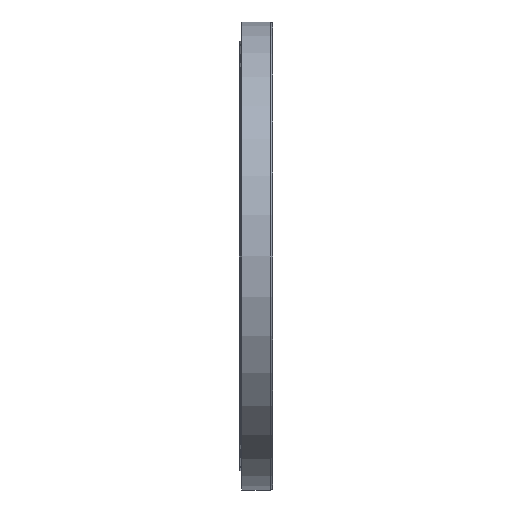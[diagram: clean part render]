
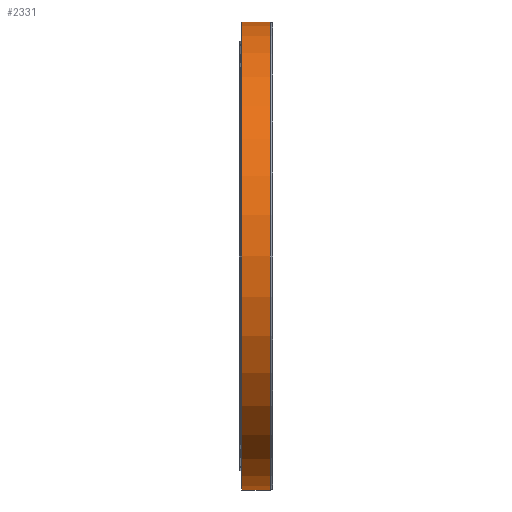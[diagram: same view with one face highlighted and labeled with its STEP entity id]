
A CAD part, left-side view. The second image highlights one B-rep face of the part: STEP entity #2331.
In plain terms, the highlighted cylindrical face has radius 935 mm (diameter 1870 mm), a partial arc.
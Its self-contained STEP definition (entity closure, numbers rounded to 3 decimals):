
#505 = CYLINDRICAL_SURFACE ( 'NONE', #1928, 935. ) ;
#752 = EDGE_CURVE ( 'NONE', #17371, #10315, #29123, .T. ) ;
#981 = LINE ( 'NONE', #30264, #5271 ) ;
#1928 = AXIS2_PLACEMENT_3D ( 'NONE', #21004, #16593, #28807 ) ;
#2331 = ADVANCED_FACE ( 'NONE', ( #16244 ), #505, .T. ) ;
#2987 = DIRECTION ( 'NONE',  ( 0., -1., 0. ) ) ;
#5123 = VECTOR ( 'NONE', #17829, 1000. ) ;
#5271 = VECTOR ( 'NONE', #11865, 1000. ) ;
#9178 = AXIS2_PLACEMENT_3D ( 'NONE', #21499, #11076, #21839 ) ;
#10113 = ORIENTED_EDGE ( 'NONE', *, *, #24777, .F. ) ;
#10307 = CARTESIAN_POINT ( 'NONE',  ( 0., -127.171, 935. ) ) ;
#10315 = VERTEX_POINT ( 'NONE', #31352 ) ;
#10864 = VERTEX_POINT ( 'NONE', #10307 ) ;
#11076 = DIRECTION ( 'NONE',  ( 0., -1., 0. ) ) ;
#11865 = DIRECTION ( 'NONE',  ( 0., -1., 0. ) ) ;
#12489 = ORIENTED_EDGE ( 'NONE', *, *, #752, .T. ) ;
#13624 = CARTESIAN_POINT ( 'NONE',  ( 0., -127.171, -935. ) ) ;
#13714 = CARTESIAN_POINT ( 'NONE',  ( 0., -127.171, 0. ) ) ;
#15408 = LINE ( 'NONE', #26504, #5123 ) ;
#16244 = FACE_OUTER_BOUND ( 'NONE', #25898, .T. ) ;
#16593 = DIRECTION ( 'NONE',  ( 0., -1., 0. ) ) ;
#17371 = VERTEX_POINT ( 'NONE', #23091 ) ;
#17829 = DIRECTION ( 'NONE',  ( 0., -1., 0. ) ) ;
#21004 = CARTESIAN_POINT ( 'NONE',  ( 0., 0., 0. ) ) ;
#21359 = DIRECTION ( 'NONE',  ( 0., 0., -1. ) ) ;
#21499 = CARTESIAN_POINT ( 'NONE',  ( 0., -13.171, 0. ) ) ;
#21839 = DIRECTION ( 'NONE',  ( 0., 0., -1. ) ) ;
#23091 = CARTESIAN_POINT ( 'NONE',  ( 0., -13.171, 935. ) ) ;
#24310 = ORIENTED_EDGE ( 'NONE', *, *, #28383, .F. ) ;
#24777 = EDGE_CURVE ( 'NONE', #17371, #10864, #981, .T. ) ;
#25633 = AXIS2_PLACEMENT_3D ( 'NONE', #13714, #2987, #21359 ) ;
#25898 = EDGE_LOOP ( 'NONE', ( #10113, #12489, #30447, #24310 ) ) ;
#26282 = EDGE_CURVE ( 'NONE', #10315, #28098, #15408, .T. ) ;
#26504 = CARTESIAN_POINT ( 'NONE',  ( 0., 0., -935. ) ) ;
#28098 = VERTEX_POINT ( 'NONE', #13624 ) ;
#28383 = EDGE_CURVE ( 'NONE', #10864, #28098, #31177, .T. ) ;
#28807 = DIRECTION ( 'NONE',  ( 0., 0., -1. ) ) ;
#29123 = CIRCLE ( 'NONE', #9178, 935. ) ;
#30264 = CARTESIAN_POINT ( 'NONE',  ( 0., 0., 935. ) ) ;
#30447 = ORIENTED_EDGE ( 'NONE', *, *, #26282, .T. ) ;
#31177 = CIRCLE ( 'NONE', #25633, 935. ) ;
#31352 = CARTESIAN_POINT ( 'NONE',  ( 0., -13.171, -935. ) ) ;
